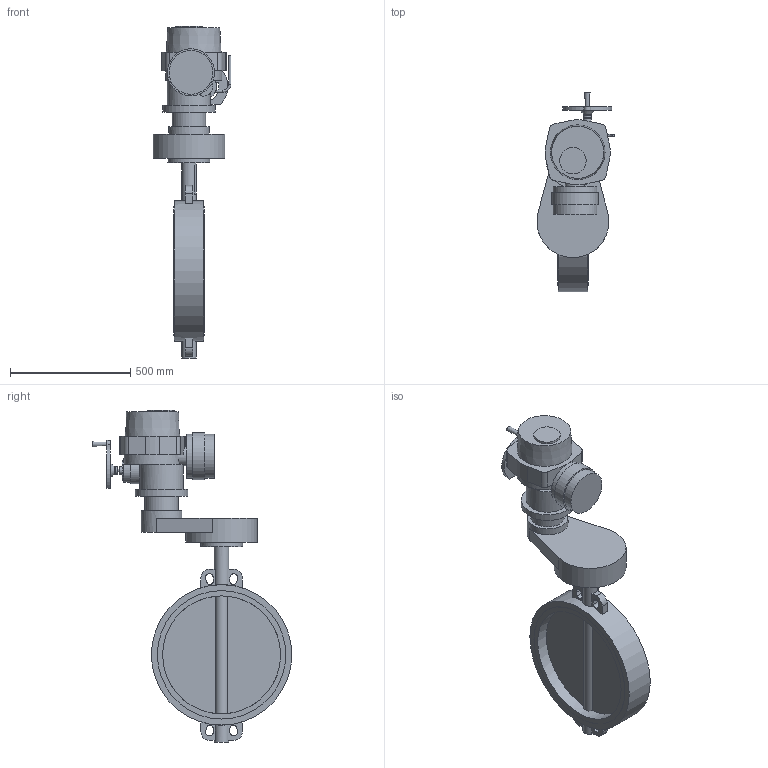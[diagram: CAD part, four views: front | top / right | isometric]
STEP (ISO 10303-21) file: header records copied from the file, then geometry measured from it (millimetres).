
FILE_DESCRIPTION(('STEP AP203'), '1');
FILE_NAME('Çàòâîð 017W.Z(ñòàëü) DN500+ÝÏ QT.A300', '', ('UNSPECIFIED'), ('UNSPECIFIED'), 'ASCON STEP Converter 1.6', 'ASCON Math Kernel', '');
FILE_SCHEMA(('CONFIG_CONTROL_DESIGN'));
Length unit declared in the file: millimetre
Bounding box: 324.45 x 831.5 x 1383 mm (x, y, z)
Volume: 46141903.3 mm3; surface area: 2017525.2 mm2
Topology: 1 solids, 1 shells, 874 faces, 2423 edges, 1610 vertices
Faces by surface type: cylinder 624, plane 246, cone 3, torus 1
Full cylindrical faces by diameter (mm): 10 x2, 14 x12, 16 x1, 17.5 x4, 18 x4, 32 x2, 35 x1, 60 x2, 80 x2, 100 x1, 110 x1, 140 x1, 170 x1, 175 x1, 180 x1, 183 x2, 196 x1, 220 x1, 300 x1, 491.6 x2, 535 x2, 585 x1
Entity records: 36549 total; most frequent: CARTESIAN_POINT 6049, DIRECTION 5398, ORIENTED_EDGE 4746, EDGE_CURVE 2373, AXIS2_PLACEMENT_3D 2170, VERTEX_POINT 1610, CIRCLE 1295, LINE 1058
